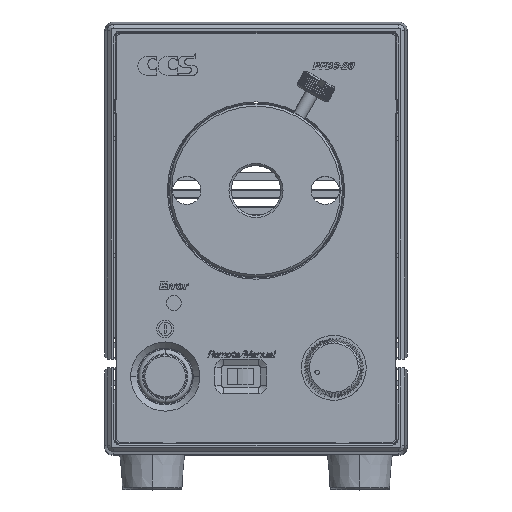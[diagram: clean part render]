
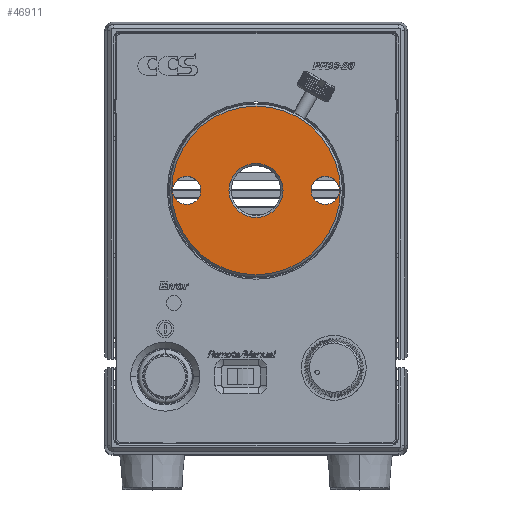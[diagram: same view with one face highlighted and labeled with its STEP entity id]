
A CAD part, top view. The second image highlights one B-rep face of the part: STEP entity #46911.
In plain terms, the highlighted planar face has unit normal (0, 0, 1).
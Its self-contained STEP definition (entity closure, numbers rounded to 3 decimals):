
#273 = EDGE_CURVE ( 'NONE', #14848, #10661, #36897, .T. ) ;
#394 = AXIS2_PLACEMENT_3D ( 'NONE', #828, #43410, #49486 ) ;
#828 = CARTESIAN_POINT ( 'NONE',  ( 0., 11., 91.801 ) ) ;
#1453 = ORIENTED_EDGE ( 'NONE', *, *, #29681, .T. ) ;
#2033 = AXIS2_PLACEMENT_3D ( 'NONE', #6783, #49364, #67737 ) ;
#3339 = FACE_OUTER_BOUND ( 'NONE', #57539, .T. ) ;
#4302 = EDGE_CURVE ( 'NONE', #67344, #17565, #72091, .T. ) ;
#4319 = CARTESIAN_POINT ( 'NONE',  ( -12.75, 11., 91.801 ) ) ;
#5193 = CIRCLE ( 'NONE', #37471, 19.5 ) ;
#6759 = ORIENTED_EDGE ( 'NONE', *, *, #4302, .T. ) ;
#6783 = CARTESIAN_POINT ( 'NONE',  ( 0., 11., 91.801 ) ) ;
#7185 = ORIENTED_EDGE ( 'NONE', *, *, #13000, .F. ) ;
#7859 = CARTESIAN_POINT ( 'NONE',  ( 12.75, 11., 91.801 ) ) ;
#7932 = ORIENTED_EDGE ( 'NONE', *, *, #59961, .F. ) ;
#8824 = DIRECTION ( 'NONE',  ( 0., 0., 1. ) ) ;
#9101 = EDGE_LOOP ( 'NONE', ( #32155, #45219 ) ) ;
#9198 = EDGE_CURVE ( 'NONE', #17565, #67344, #5193, .T. ) ;
#9915 = VERTEX_POINT ( 'NONE', #19956 ) ;
#10298 = DIRECTION ( 'NONE',  ( -1., 0., 0. ) ) ;
#10661 = VERTEX_POINT ( 'NONE', #18278 ) ;
#11209 = CARTESIAN_POINT ( 'NONE',  ( -19.5, 11., 91.801 ) ) ;
#13000 = EDGE_CURVE ( 'NONE', #25655, #61709, #54669, .T. ) ;
#13055 = EDGE_CURVE ( 'NONE', #9915, #33901, #14743, .T. ) ;
#13222 = CARTESIAN_POINT ( 'NONE',  ( 19.25, 11., 91.801 ) ) ;
#13633 = EDGE_LOOP ( 'NONE', ( #27198, #1453 ) ) ;
#14540 = DIRECTION ( 'NONE',  ( 0., 0., 1. ) ) ;
#14578 = EDGE_CURVE ( 'NONE', #10661, #14848, #21199, .T. ) ;
#14743 = CIRCLE ( 'NONE', #394, 6.25 ) ;
#14848 = VERTEX_POINT ( 'NONE', #4319 ) ;
#15100 = CARTESIAN_POINT ( 'NONE',  ( 0., 11., 91.801 ) ) ;
#15943 = PLANE ( 'NONE',  #21714 ) ;
#17565 = VERTEX_POINT ( 'NONE', #50238 ) ;
#18278 = CARTESIAN_POINT ( 'NONE',  ( -19.25, 11., 91.801 ) ) ;
#19552 = FACE_BOUND ( 'NONE', #13633, .T. ) ;
#19956 = CARTESIAN_POINT ( 'NONE',  ( 6.25, 11., 91.801 ) ) ;
#20259 = AXIS2_PLACEMENT_3D ( 'NONE', #44822, #14540, #32890 ) ;
#21199 = CIRCLE ( 'NONE', #32543, 3.25 ) ;
#21714 = AXIS2_PLACEMENT_3D ( 'NONE', #34526, #29222, #10298 ) ;
#24795 = DIRECTION ( 'NONE',  ( 0., 0., 1. ) ) ;
#25655 = VERTEX_POINT ( 'NONE', #7859 ) ;
#26202 = DIRECTION ( 'NONE',  ( 0., 0., 1. ) ) ;
#26279 = EDGE_LOOP ( 'NONE', ( #7932, #7185 ) ) ;
#27198 = ORIENTED_EDGE ( 'NONE', *, *, #13055, .T. ) ;
#29222 = DIRECTION ( 'NONE',  ( 0., 0., -1. ) ) ;
#29681 = EDGE_CURVE ( 'NONE', #33901, #9915, #32559, .T. ) ;
#32155 = ORIENTED_EDGE ( 'NONE', *, *, #273, .F. ) ;
#32363 = DIRECTION ( 'NONE',  ( -1., 0., 0. ) ) ;
#32543 = AXIS2_PLACEMENT_3D ( 'NONE', #46614, #34147, #40002 ) ;
#32559 = CIRCLE ( 'NONE', #48912, 6.25 ) ;
#32890 = DIRECTION ( 'NONE',  ( 1., 0., 0. ) ) ;
#33397 = DIRECTION ( 'NONE',  ( 0., 0., -1. ) ) ;
#33901 = VERTEX_POINT ( 'NONE', #37247 ) ;
#34147 = DIRECTION ( 'NONE',  ( 0., 0., 1. ) ) ;
#34526 = CARTESIAN_POINT ( 'NONE',  ( 0., 31., 91.801 ) ) ;
#36481 = CARTESIAN_POINT ( 'NONE',  ( 16., 11., 91.801 ) ) ;
#36897 = CIRCLE ( 'NONE', #47698, 3.25 ) ;
#37247 = CARTESIAN_POINT ( 'NONE',  ( -6.25, 11., 91.801 ) ) ;
#37471 = AXIS2_PLACEMENT_3D ( 'NONE', #38391, #8824, #51416 ) ;
#37758 = CIRCLE ( 'NONE', #20259, 3.25 ) ;
#38391 = CARTESIAN_POINT ( 'NONE',  ( 0., 11., 91.801 ) ) ;
#38720 = CARTESIAN_POINT ( 'NONE',  ( -16., 11., 91.801 ) ) ;
#40002 = DIRECTION ( 'NONE',  ( 1., 0., 0. ) ) ;
#43410 = DIRECTION ( 'NONE',  ( 0., 0., -1. ) ) ;
#44822 = CARTESIAN_POINT ( 'NONE',  ( 16., 11., 91.801 ) ) ;
#45219 = ORIENTED_EDGE ( 'NONE', *, *, #14578, .F. ) ;
#46614 = CARTESIAN_POINT ( 'NONE',  ( -16., 11., 91.801 ) ) ;
#46911 = ADVANCED_FACE ( 'NONE', ( #19552, #3339, #74802, #72870 ), #15943, .F. ) ;
#47698 = AXIS2_PLACEMENT_3D ( 'NONE', #38720, #26202, #51211 ) ;
#48912 = AXIS2_PLACEMENT_3D ( 'NONE', #15100, #33397, #32363 ) ;
#49364 = DIRECTION ( 'NONE',  ( 0., 0., 1. ) ) ;
#49486 = DIRECTION ( 'NONE',  ( -1., 0., 0. ) ) ;
#50238 = CARTESIAN_POINT ( 'NONE',  ( 19.5, 11., 91.801 ) ) ;
#51211 = DIRECTION ( 'NONE',  ( 1., 0., 0. ) ) ;
#51416 = DIRECTION ( 'NONE',  ( -1., 0., 0. ) ) ;
#54552 = DIRECTION ( 'NONE',  ( 1., 0., 0. ) ) ;
#54669 = CIRCLE ( 'NONE', #70221, 3.25 ) ;
#57539 = EDGE_LOOP ( 'NONE', ( #6759, #62111 ) ) ;
#59961 = EDGE_CURVE ( 'NONE', #61709, #25655, #37758, .T. ) ;
#61709 = VERTEX_POINT ( 'NONE', #13222 ) ;
#62111 = ORIENTED_EDGE ( 'NONE', *, *, #9198, .T. ) ;
#67344 = VERTEX_POINT ( 'NONE', #11209 ) ;
#67737 = DIRECTION ( 'NONE',  ( -1., 0., 0. ) ) ;
#70221 = AXIS2_PLACEMENT_3D ( 'NONE', #36481, #24795, #54552 ) ;
#72091 = CIRCLE ( 'NONE', #2033, 19.5 ) ;
#72870 = FACE_BOUND ( 'NONE', #26279, .T. ) ;
#74802 = FACE_BOUND ( 'NONE', #9101, .T. ) ;
